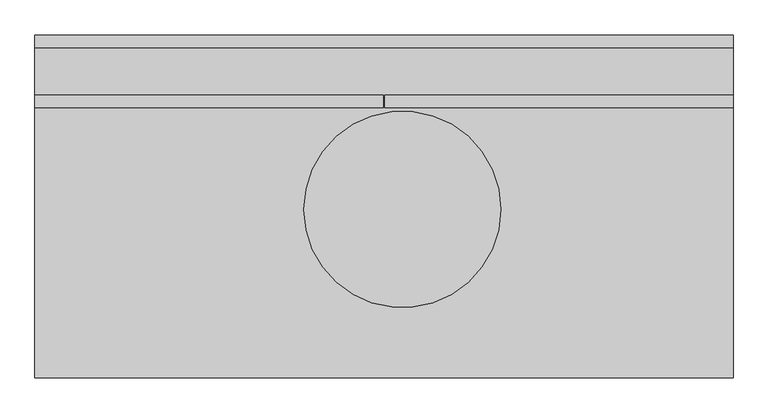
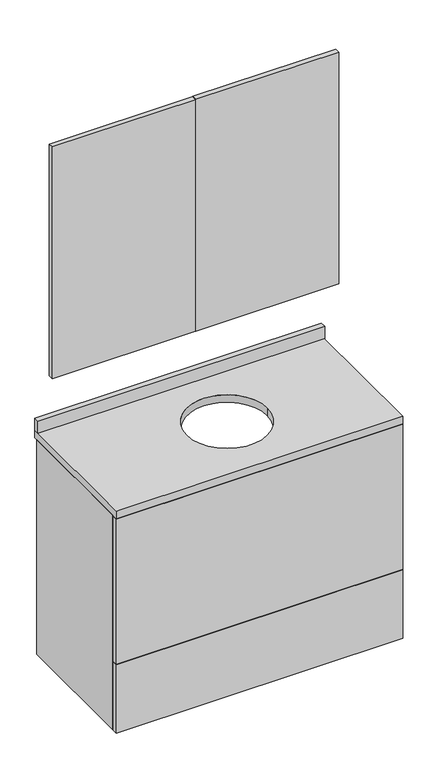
"""IFC4 building model written with IfcOpenShell, lengths in millimetres: furniture geometry, Mueble para Baño 6 : Único."""

from ifc_helpers import new_model, si_unit, point, frame, frame_2d, origin, place, context, project, spatial, polyline, circle_curve, trimmed, segment, composite_curve, outline, extrude, source, transform, mapped, element, save


def furniture_196cf90c(model_context):
    return source(origin(), model_context, "Body", "SweptSolid", [
        extrude(outline(polyline([(-550.0, 0.0), (550.0, 0.0), (550.0, -20.0), (-550.0, -20.0), (-550.0, 0.0)])), frame((0.0, 0.0, 1000.0), z_axis=(0.0, 0.0, 1.0), x_axis=(1.0, 0.0, 0.0)), (0.0, 0.0, 1.0), 50.0),
        extrude(outline(polyline([(550.0, -115.0), (1.0, -115.0), (1.0, -95.0), (550.0, -95.0), (550.0, -115.0)])), frame((0.0, 0.0, 1280.0), z_axis=(0.0, 0.0, 1.0), x_axis=(1.0, 0.0, 0.0)), (0.0, 0.0, 1.0), 940.0),
        extrude(outline(polyline([(-1.0, -115.0), (-550.0, -115.0), (-550.0, -95.0), (-1.0, -95.0), (-1.0, -115.0)])), frame((0.0, 0.0, 1280.0), z_axis=(0.0, 0.0, 1.0), x_axis=(1.0, 0.0, 0.0)), (0.0, 0.0, 1.0), 940.0),
        extrude(outline(polyline([(550.0, -541.0), (-550.0, -541.0), (-550.0, -521.0), (550.0, -521.0), (550.0, -541.0)])), frame((0.0, 0.0, 100.0), z_axis=(0.0, 0.0, 1.0), x_axis=(1.0, 0.0, 0.0)), (0.0, 0.0, 1.0), 278.25),
        extrude(outline(polyline([(550.0, -541.0), (-550.0, -541.0), (-550.0, -521.0), (550.0, -521.0), (550.0, -541.0)])), frame((0.0, 0.0, 380.25), z_axis=(0.0, 0.0, 1.0), x_axis=(1.0, 0.0, 0.0)), (0.0, 0.0, 1.0), 587.75),
        extrude(outline(polyline([(100.0, 550.0), (970.0, 550.0), (970.0, 530.0), (120.0, 530.0), (120.0, -530.0), (970.0, -530.0), (970.0, -550.0), (100.0, -550.0), (100.0, 550.0)])), frame((0.0, -518.0, 0.0), z_axis=(0.0, 1.0, 0.0), x_axis=(0.0, 0.0, 1.0)), (0.0, 0.0, 1.0), 505.0),
        extrude(outline(polyline([(-550.0, -541.0), (-550.0, 0.0), (550.0, 0.0), (550.0, -541.0), (-550.0, -541.0)]), holes=[composite_curve([segment(trimmed(circle_curve(frame_2d((28.882218, -275.0)), 155.0), [point((-126.117782, -275.0))], [point((183.882218, -275.0))], True, "CARTESIAN"), True, "CONTINUOUS"), segment(trimmed(circle_curve(frame_2d((28.882218, -275.0)), 155.0), [point((183.882218, -275.0))], [point((-126.117782, -275.0))], True, "CARTESIAN"), True, "CONTINUOUS")], self_intersect=False)]), frame((0.0, 0.0, 970.0), z_axis=(0.0, 0.0, 1.0), x_axis=(1.0, 0.0, 0.0)), (0.0, 0.0, 1.0), 30.0),
    ])


if __name__ == "__main__":
    model = new_model("IFC4")
    model_context = context("Model", 3, world=origin())
    ifc_project = project(units=[si_unit("LENGTHUNIT", "METRE", prefix="MILLI")], contexts=[model_context])
    site = spatial("IfcSite", under=ifc_project)
    building = spatial("IfcBuilding", under=site)
    placement = place(None, origin())
    furniture_shape = furniture_196cf90c(model_context)
    element("IfcFurniture", 1, ObjectType="Mueble para Baño 6 : Único", at=placement, inside=building, context=model_context, shape_type="MappedRepresentation", body=[
        mapped(furniture_shape, transform((0.0, 0.0, 0.0), x_axis=(1.0, 0.0, 0.0), y_axis=(0.0, 1.0, 0.0), z_axis=(0.0, 0.0, 1.0))),
    ])
    save(model, "model.ifc")
